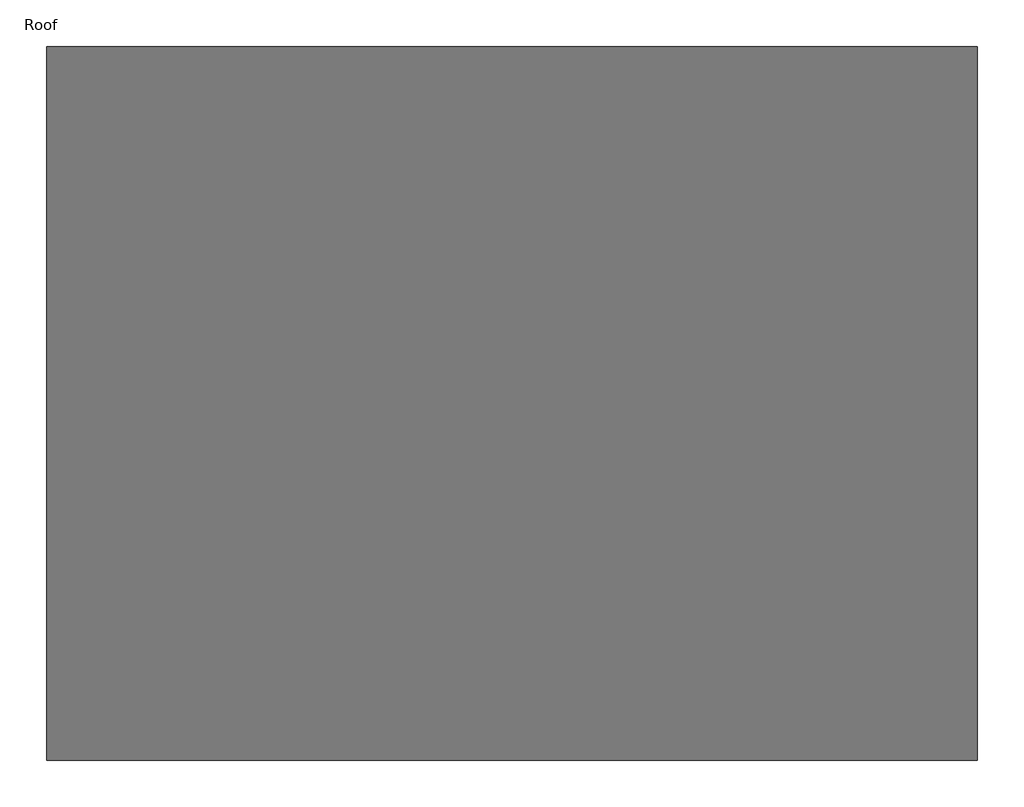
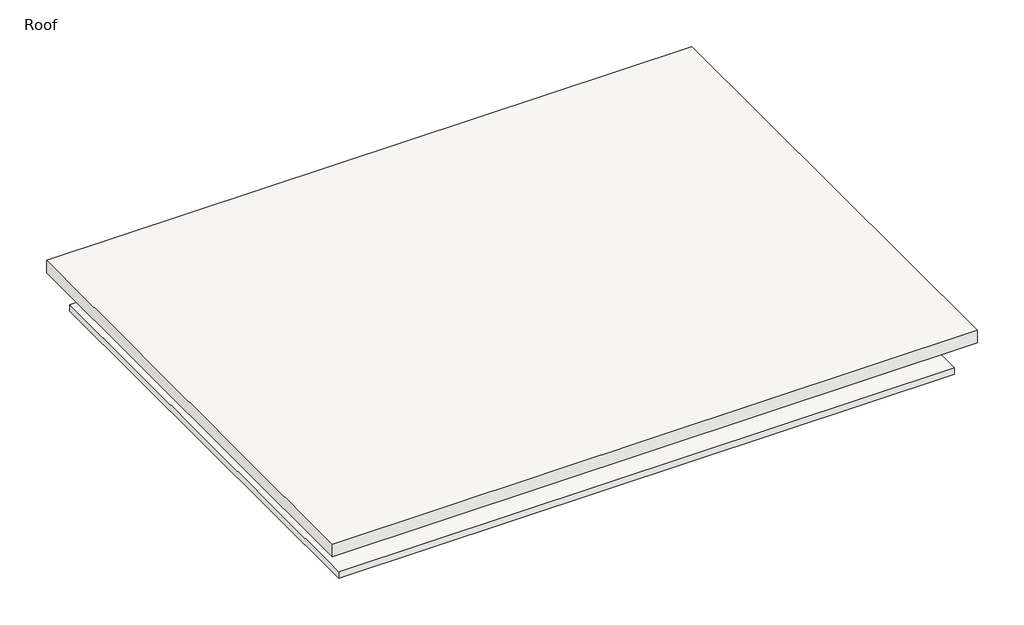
# One storey: 4 proxies, 1 roof, 1 slab.
"""IFC4 building model written with IfcOpenShell, lengths in millimetres."""

from ifc_helpers import new_model, si_unit, frame, origin, place, context, project, spatial, polyline, outline, extrude, element, save

model = new_model("IFC4")

# Units and contexts
model_context = context("Model", 3, world=origin())
ifc_project = project(units=[si_unit("LENGTHUNIT", "METRE", prefix="MILLI")], contexts=[model_context])

# Site, building, storey
site = spatial("IfcSite", under=ifc_project)
building = spatial("IfcBuilding", under=site)
storey = spatial("IfcBuildingStorey", under=building, Name="Roof", Elevation=10800.0)

# Proxies
placement = place(None, origin())
element("IfcBuildingElementProxy", 1, Name="Reveals", at=placement, inside=storey, context=model_context, shape_type="SweptSolid", body=[
    extrude(outline(polyline([(-17378.8100037, 5434.2363466), (-17481.3100037, 5536.7363466), (1223.6899963, 5536.7363466), (1121.1899963, 5434.2363466), (-17378.8100037, 5434.2363466)])), frame((0.0, 0.0, 11400.0), z_axis=(0.0, 0.0, 1.0), x_axis=(1.0, 0.0, 0.0)), (0.0, 0.0, 1.0), 75.0),
])
element("IfcBuildingElementProxy", 2, Name="Reveals", at=placement, inside=storey, context=model_context, shape_type="SweptSolid", body=[
    extrude(outline(polyline([(-17378.8100037, -8493.7636534), (-17481.3100037, -8596.2636534), (-17481.3100037, 5536.7363466), (-17378.8100037, 5434.2363466), (-17378.8100037, -8493.7636534)])), frame((0.0, 0.0, 11400.0), z_axis=(0.0, 0.0, 1.0), x_axis=(1.0, 0.0, 0.0)), (0.0, 0.0, 1.0), 75.0),
])
element("IfcBuildingElementProxy", 3, Name="Reveals", at=placement, inside=storey, context=model_context, shape_type="SweptSolid", body=[
    extrude(outline(polyline([(1121.1899963, -8493.7636534), (1223.6899963, -8596.2636534), (-17481.3100037, -8596.2636534), (-17378.8100037, -8493.7636534), (1121.1899963, -8493.7636534)])), frame((0.0, 0.0, 11400.0), z_axis=(0.0, 0.0, 1.0), x_axis=(1.0, 0.0, 0.0)), (0.0, 0.0, 1.0), 75.0),
])
element("IfcBuildingElementProxy", 4, Name="Reveals", at=placement, inside=storey, context=model_context, shape_type="SweptSolid", body=[
    extrude(outline(polyline([(1121.1899963, 5434.2363466), (1223.6899963, 5536.7363466), (1223.6899963, -8596.2636534), (1121.1899963, -8493.7636534), (1121.1899963, 5434.2363466)])), frame((0.0, 0.0, 11400.0), z_axis=(0.0, 0.0, 1.0), x_axis=(1.0, 0.0, 0.0)), (0.0, 0.0, 1.0), 75.0),
])

# Roof
element("IfcRoof", 5, ObjectType="Generic - 400mm", at=placement, inside=storey, context=model_context, shape_type="SweptSolid", body=[
    extrude(outline(polyline([(-17952.8100037, 6008.2363466), (1695.1899963, 6008.2363466), (1695.1899963, -9067.7636534), (-17952.8100037, -9067.7636534), (-17952.8100037, 6008.2363466)])), frame((0.0, 0.0, 11714.4), z_axis=(0.0, 0.0, 1.0), x_axis=(1.0, 0.0, 0.0)), (0.0, 0.0, 1.0), 400.0),
])

# Slab
element("IfcSlab", 6, ObjectType="160mm Concrete With 50mm Metal Deck", at=placement, inside=storey, context=model_context, shape_type="SweptSolid", body=[
    extrude(outline(polyline([(1245.1899963, 5558.2363466), (1245.1899963, -8617.7636534), (-17502.8100037, -8617.7636534), (-17502.8100037, 5558.2363466), (1245.1899963, 5558.2363466)])), frame((0.0, 0.0, 10590.0), z_axis=(0.0, 0.0, 1.0), x_axis=(1.0, 0.0, 0.0)), (0.0, 0.0, 1.0), 210.0),
])

save(model, "model.ifc")
